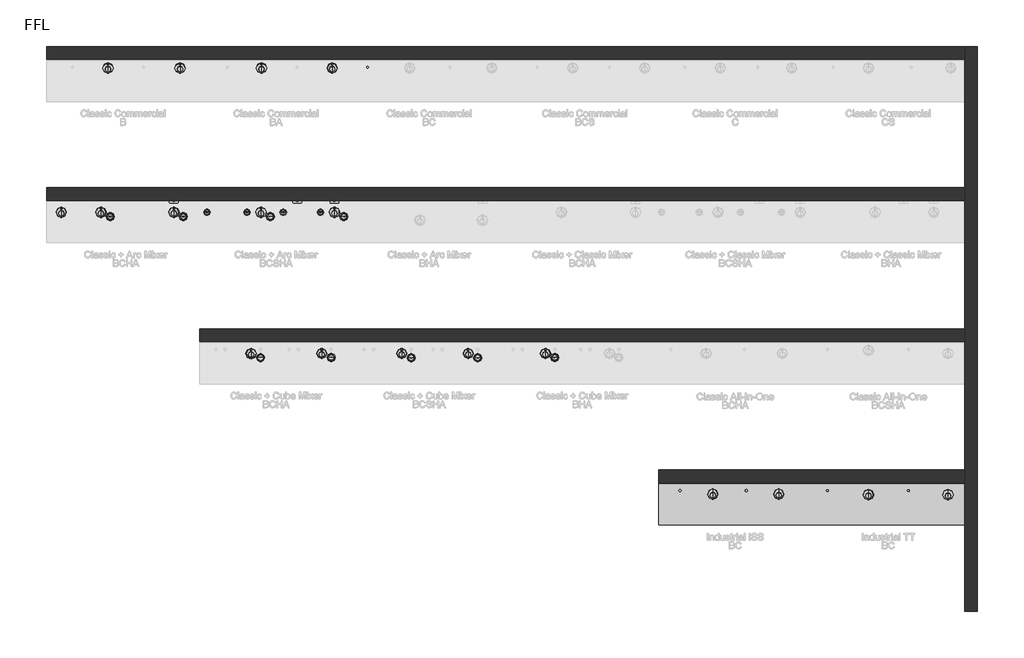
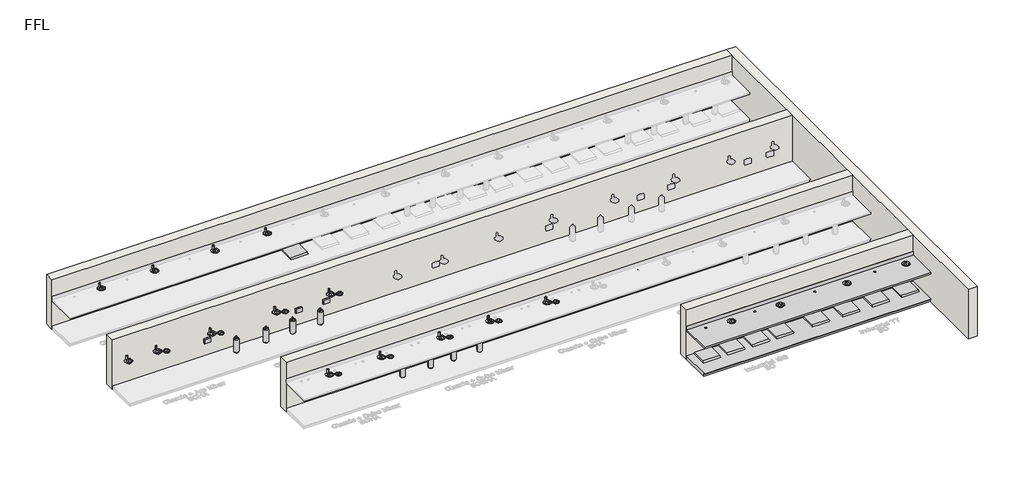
# One storey, part 1 of 13: 58 flow terminals, 5 walls, 2 furniture elements.
"""IFC4 building model written with IfcOpenShell, lengths in millimetres."""

from ifc_helpers import new_model, si_unit, frame, origin, origin_with_axes, place, context, project, spatial, polyline, circle_curve, outline, extrude, faceted_brep, transform, mapped, element, save
from ifc_brep_helpers import plane_surface, revolved_surface, advanced_brep
from components import flow_terminal_1fd3c137, bcs_and_bc_6de74493, bright_chrome_07e2d693, bright_chrome_a5679dcf, brushed_chrome_743c02cf, co2_gas_cylinder_20234e14, generic_plinth_900mm_54fedcf1

model = new_model("IFC4")

# Units and contexts
model_context = context("Model", 3, world=origin())
ifc_project = project(units=[si_unit("LENGTHUNIT", "METRE", prefix="MILLI")], contexts=[model_context])

# Site, building, storey
site = spatial("IfcSite", under=ifc_project)
building = spatial("IfcBuilding", under=site)
storey = spatial("IfcBuildingStorey", under=building, Name="FFL", Elevation=0.0)

# Flow terminals
placement = place(None, origin())
flow_terminal_shape = flow_terminal_1fd3c137(model_context)
element("IfcFlowTerminal", 1, ObjectType="z_PlumFixt_Zenith_Booster : Booster", at=placement, inside=storey, context=model_context, shape_type="MappedRepresentation", body=[
    mapped(flow_terminal_shape, transform((-4136.7352929, 7886.1893304, 498.0), x_axis=(1.0, 0.0, 0.0), y_axis=(0.0, 1.0, 0.0), z_axis=(0.0, 0.0, 1.0))),
])
element("IfcFlowTerminal", 2, ObjectType="z_PlumFixt_Zenith_Booster : Booster", at=placement, inside=storey, context=model_context, shape_type="MappedRepresentation", body=[
    mapped(flow_terminal_shape, transform((-4916.7352929, 7886.1893304, 498.0), x_axis=(1.0, 0.0, 0.0), y_axis=(0.0, 1.0, 0.0), z_axis=(0.0, 0.0, 1.0))),
])
element("IfcFlowTerminal", 3, ObjectType="z_PlumFixt_Zenith_Booster : Booster", at=placement, inside=storey, context=model_context, shape_type="MappedRepresentation", body=[
    mapped(flow_terminal_shape, transform((-856.7352929, 4901.1893304, 498.0), x_axis=(1.0, 0.0, 0.0), y_axis=(0.0, 1.0, 0.0), z_axis=(0.0, 0.0, 1.0))),
])
element("IfcFlowTerminal", 4, ObjectType="z_PlumFixt_Zenith_Booster : Booster", at=placement, inside=storey, context=model_context, shape_type="MappedRepresentation", body=[
    mapped(flow_terminal_shape, transform((-1646.7352929, 4901.1893304, 498.0), x_axis=(1.0, 0.0, 0.0), y_axis=(0.0, 1.0, 0.0), z_axis=(0.0, 0.0, 1.0))),
])
element("IfcFlowTerminal", 5, ObjectType="z_PlumFixt_Zenith_Booster : Booster", at=placement, inside=storey, context=model_context, shape_type="MappedRepresentation", body=[
    mapped(flow_terminal_shape, transform((-4266.7352929, 4901.1893304, 498.0), x_axis=(1.0, 0.0, 0.0), y_axis=(0.0, 1.0, 0.0), z_axis=(0.0, 0.0, 1.0))),
])
element("IfcFlowTerminal", 6, ObjectType="z_PlumFixt_Zenith_Booster : Booster", at=placement, inside=storey, context=model_context, shape_type="MappedRepresentation", body=[
    mapped(flow_terminal_shape, transform((-1656.7352929, 7886.1893304, 498.0), x_axis=(1.0, 0.0, 0.0), y_axis=(0.0, 1.0, 0.0), z_axis=(0.0, 0.0, 1.0))),
])
element("IfcFlowTerminal", 7, ObjectType="z_PlumFixt_Zenith_Booster : Booster", at=placement, inside=storey, context=model_context, shape_type="MappedRepresentation", body=[
    mapped(flow_terminal_shape, transform((-906.7352929, 7886.1893304, 498.0), x_axis=(1.0, 0.0, 0.0), y_axis=(0.0, 1.0, 0.0), z_axis=(0.0, 0.0, 1.0))),
])
element("IfcFlowTerminal", 8, ObjectType="z_PlumFixt_Zenith_Booster : Booster", at=placement, inside=storey, context=model_context, shape_type="MappedRepresentation", body=[
    mapped(flow_terminal_shape, transform((-1126.7352929, 1751.1893304, 498.0), x_axis=(1.0, 0.0, 0.0), y_axis=(0.0, 1.0, 0.0), z_axis=(0.0, 0.0, 1.0))),
])
element("IfcFlowTerminal", 9, ObjectType="z_PlumFixt_Zenith_Booster : Booster", at=placement, inside=storey, context=model_context, shape_type="MappedRepresentation", body=[
    mapped(flow_terminal_shape, transform((1233.2647071, 1901.1893304, 498.0), x_axis=(1.0, 0.0, 0.0), y_axis=(0.0, 1.0, 0.0), z_axis=(0.0, 0.0, 1.0))),
])
element("IfcFlowTerminal", 10, ObjectType="z_PlumFixt_Zenith_Booster : Booster", at=placement, inside=storey, context=model_context, shape_type="MappedRepresentation", body=[
    mapped(flow_terminal_shape, transform((1983.2647071, 1901.1893304, 498.0), x_axis=(1.0, 0.0, 0.0), y_axis=(0.0, 1.0, 0.0), z_axis=(0.0, 0.0, 1.0))),
])
element("IfcFlowTerminal", 11, ObjectType="z_PlumFixt_Zenith_Booster : Booster", at=placement, inside=storey, context=model_context, shape_type="MappedRepresentation", body=[
    mapped(flow_terminal_shape, transform((7892.2647071, -1113.8106696, 538.0), x_axis=(1.0, 0.0, 0.0), y_axis=(0.0, 1.0, 0.0), z_axis=(0.0, 0.0, 1.0))),
])
element("IfcFlowTerminal", 12, ObjectType="z_PlumFixt_Zenith_Booster : Booster", at=placement, inside=storey, context=model_context, shape_type="MappedRepresentation", body=[
    mapped(flow_terminal_shape, transform((8580.2647071, -1113.8106696, 538.0), x_axis=(1.0, 0.0, 0.0), y_axis=(0.0, 1.0, 0.0), z_axis=(0.0, 0.0, 1.0))),
])
element("IfcFlowTerminal", 13, ObjectType="z_PlumFixt_Zenith_Booster : Booster", at=placement, inside=storey, context=model_context, shape_type="MappedRepresentation", body=[
    mapped(flow_terminal_shape, transform((11332.2647071, -1113.8106696, 538.0), x_axis=(1.0, 0.0, 0.0), y_axis=(0.0, 1.0, 0.0), z_axis=(0.0, 0.0, 1.0))),
])
element("IfcFlowTerminal", 14, ObjectType="z_PlumFixt_Zenith_Booster : Booster", at=placement, inside=storey, context=model_context, shape_type="MappedRepresentation", body=[
    mapped(flow_terminal_shape, transform((12173.2647071, -1113.8106696, 538.0), x_axis=(1.0, 0.0, 0.0), y_axis=(0.0, 1.0, 0.0), z_axis=(0.0, 0.0, 1.0))),
])
bcs_and_bc_shape = bcs_and_bc_6de74493(model_context)
element("IfcFlowTerminal", 15, ObjectType="z_PlumFixt_Zenith_Vent Tray : BCS and BC", at=placement, inside=storey, context=model_context, shape_type="MappedRepresentation", body=[
    mapped(bcs_and_bc_shape, transform((-150.7352929, 7706.6893304, 100.0), x_axis=(1.0, 0.0, 0.0), y_axis=(0.0, 1.0, 0.0), z_axis=(0.0, 0.0, 1.0))),
])
element("IfcFlowTerminal", 16, ObjectType="z_PlumFixt_Zenith_Vent Tray : BCS and BC", at=placement, inside=storey, context=model_context, shape_type="MappedRepresentation", body=[
    mapped(bcs_and_bc_shape, transform((6483.2647071, -1293.3106696, 100.0), x_axis=(1.0, 0.0, 0.0), y_axis=(0.0, 1.0, 0.0), z_axis=(0.0, 0.0, 1.0))),
])
element("IfcFlowTerminal", 17, ObjectType="z_PlumFixt_Zenith_Vent Tray : BCS and BC", at=placement, inside=storey, context=model_context, shape_type="MappedRepresentation", body=[
    mapped(bcs_and_bc_shape, transform((7180.2647071, -1293.3106696, 100.0), x_axis=(1.0, 0.0, 0.0), y_axis=(0.0, 1.0, 0.0), z_axis=(0.0, 0.0, 1.0))),
])
element("IfcFlowTerminal", 18, ObjectType="z_PlumFixt_Zenith_Vent Tray : BCS and BC", at=placement, inside=storey, context=model_context, shape_type="MappedRepresentation", body=[
    mapped(bcs_and_bc_shape, transform((7892.2647071, -1293.3106696, 100.0), x_axis=(1.0, 0.0, 0.0), y_axis=(0.0, 1.0, 0.0), z_axis=(0.0, 0.0, 1.0))),
])
element("IfcFlowTerminal", 19, ObjectType="z_PlumFixt_Zenith_Vent Tray : BCS and BC", at=placement, inside=storey, context=model_context, shape_type="MappedRepresentation", body=[
    mapped(bcs_and_bc_shape, transform((8580.2647071, -1293.3106696, 100.0), x_axis=(1.0, 0.0, 0.0), y_axis=(0.0, 1.0, 0.0), z_axis=(0.0, 0.0, 1.0))),
])
element("IfcFlowTerminal", 20, ObjectType="z_PlumFixt_Zenith_Vent Tray : BCS and BC", at=placement, inside=storey, context=model_context, shape_type="MappedRepresentation", body=[
    mapped(bcs_and_bc_shape, transform((9612.2647071, -1293.3106696, 100.0), x_axis=(1.0, 0.0, 0.0), y_axis=(0.0, 1.0, 0.0), z_axis=(0.0, 0.0, 1.0))),
])
element("IfcFlowTerminal", 21, ObjectType="z_PlumFixt_Zenith_Vent Tray : BCS and BC", at=placement, inside=storey, context=model_context, shape_type="MappedRepresentation", body=[
    mapped(bcs_and_bc_shape, transform((10483.2647071, -1293.3106696, 100.0), x_axis=(1.0, 0.0, 0.0), y_axis=(0.0, 1.0, 0.0), z_axis=(0.0, 0.0, 1.0))),
])
element("IfcFlowTerminal", 22, ObjectType="z_PlumFixt_Zenith_Vent Tray : BCS and BC", at=placement, inside=storey, context=model_context, shape_type="MappedRepresentation", body=[
    mapped(bcs_and_bc_shape, transform((11332.2647071, -1293.3106696, 100.0), x_axis=(1.0, 0.0, 0.0), y_axis=(0.0, 1.0, 0.0), z_axis=(0.0, 0.0, 1.0))),
])
element("IfcFlowTerminal", 23, ObjectType="z_PlumFixt_Zenith_Vent Tray : BCS and BC", at=placement, inside=storey, context=model_context, shape_type="MappedRepresentation", body=[
    mapped(bcs_and_bc_shape, transform((12173.2647071, -1293.3106696, 100.0), x_axis=(1.0, 0.0, 0.0), y_axis=(0.0, 1.0, 0.0), z_axis=(0.0, 0.0, 1.0))),
])
bright_chrome_shape = bright_chrome_07e2d693(model_context)
element("IfcFlowTerminal", 24, ObjectType="z_PlumFixt_Zenith_Font and Tap Riser : Bright Chrome", at=placement, inside=storey, context=model_context, shape_type="MappedRepresentation", body=[
    mapped(bright_chrome_shape, transform((-6656.7352929, 4578.9393304, 900.0), x_axis=(1.0, 0.0, 0.0), y_axis=(0.0, 1.0, 0.0), z_axis=(0.0, 0.0, 1.0))),
])
element("IfcFlowTerminal", 25, ObjectType="z_PlumFixt_Zenith_Font and Tap Riser : Bright Chrome", at=placement, inside=storey, context=model_context, shape_type="MappedRepresentation", body=[
    mapped(bright_chrome_shape, transform((-2405.7352929, 7645.4393304, 900.0), x_axis=(1.0, 0.0, 0.0), y_axis=(0.0, 1.0, 0.0), z_axis=(0.0, 0.0, 1.0))),
])
element("IfcFlowTerminal", 26, ObjectType="z_PlumFixt_Zenith_Font and Tap Riser : Bright Chrome", at=placement, inside=storey, context=model_context, shape_type="MappedRepresentation", body=[
    mapped(bright_chrome_shape, transform((-5665.7352929, 7645.4393304, 900.0), x_axis=(1.0, 0.0, 0.0), y_axis=(0.0, 1.0, 0.0), z_axis=(0.0, 0.0, 1.0))),
])
element("IfcFlowTerminal", 27, ObjectType="z_PlumFixt_Zenith_Font and Tap Riser : Bright Chrome", at=placement, inside=storey, context=model_context, shape_type="MappedRepresentation", body=[
    mapped(bright_chrome_shape, transform((-2416.7352929, 4578.9393304, 900.0), x_axis=(1.0, 0.0, 0.0), y_axis=(0.0, 1.0, 0.0), z_axis=(0.0, 0.0, 1.0))),
])
element("IfcFlowTerminal", 28, ObjectType="z_PlumFixt_Zenith_Font and Tap Riser : Bright Chrome", at=placement, inside=storey, context=model_context, shape_type="MappedRepresentation", body=[
    mapped(bright_chrome_shape, transform((-2626.7352929, 1576.2047841, 900.0), x_axis=(1.0, 0.0, 0.0), y_axis=(0.0, 1.0, 0.0), z_axis=(0.0, 0.0, 1.0))),
])
element("IfcFlowTerminal", 29, ObjectType="z_PlumFixt_Zenith_Font and Tap Riser : Bright Chrome", at=placement, inside=storey, context=model_context, shape_type="MappedRepresentation", body=[
    mapped(bright_chrome_shape, transform((-5816.7352929, 4578.9393304, 900.0), x_axis=(1.0, 0.0, 0.0), y_axis=(0.0, 1.0, 0.0), z_axis=(0.0, 0.0, 1.0))),
])
element("IfcFlowTerminal", 30, ObjectType="z_PlumFixt_Zenith_Font and Tap Riser : Bright Chrome", at=placement, inside=storey, context=model_context, shape_type="MappedRepresentation", body=[
    mapped(bright_chrome_shape, transform((3623.2647071, 1578.9393304, 900.0), x_axis=(1.0, 0.0, 0.0), y_axis=(0.0, 1.0, 0.0), z_axis=(0.0, 0.0, 1.0))),
])
element("IfcFlowTerminal", 31, ObjectType="z_PlumFixt_Zenith_Font and Tap Riser : Bright Chrome", at=placement, inside=storey, context=model_context, shape_type="MappedRepresentation", body=[
    mapped(bright_chrome_shape, transform((572.2647071, 1578.9393304, 900.0), x_axis=(1.0, 0.0, 0.0), y_axis=(0.0, 1.0, 0.0), z_axis=(0.0, 0.0, 1.0))),
])
element("IfcFlowTerminal", 32, ObjectType="z_PlumFixt_Zenith_Font and Tap Riser : Bright Chrome", at=placement, inside=storey, context=model_context, shape_type="MappedRepresentation", body=[
    mapped(bright_chrome_shape, transform((-905.7352929, 7645.4393304, 900.0), x_axis=(1.0, 0.0, 0.0), y_axis=(0.0, 1.0, 0.0), z_axis=(0.0, 0.0, 1.0))),
])
element("IfcFlowTerminal", 33, ObjectType="z_PlumFixt_Zenith_Font and Tap Riser : Bright Chrome", at=placement, inside=storey, context=model_context, shape_type="MappedRepresentation", body=[
    mapped(bright_chrome_shape, transform((-4135.7352929, 7645.4393304, 900.0), x_axis=(1.0, 0.0, 0.0), y_axis=(0.0, 1.0, 0.0), z_axis=(0.0, 0.0, 1.0))),
])
element("IfcFlowTerminal", 34, ObjectType="z_PlumFixt_Zenith_Font and Tap Riser : Bright Chrome", at=placement, inside=storey, context=model_context, shape_type="MappedRepresentation", body=[
    mapped(bright_chrome_shape, transform((-856.7352929, 4578.9393304, 900.0), x_axis=(1.0, 0.0, 0.0), y_axis=(0.0, 1.0, 0.0), z_axis=(0.0, 0.0, 1.0))),
])
element("IfcFlowTerminal", 35, ObjectType="z_PlumFixt_Zenith_Font and Tap Riser : Bright Chrome", at=placement, inside=storey, context=model_context, shape_type="MappedRepresentation", body=[
    mapped(bright_chrome_shape, transform((1983.2647071, 1578.9393304, 900.0), x_axis=(1.0, 0.0, 0.0), y_axis=(0.0, 1.0, 0.0), z_axis=(0.0, 0.0, 1.0))),
])
element("IfcFlowTerminal", 36, ObjectType="z_PlumFixt_Zenith_Font and Tap Riser : Bright Chrome", at=placement, inside=storey, context=model_context, shape_type="MappedRepresentation", body=[
    mapped(bright_chrome_shape, transform((-4266.7352929, 4578.9393304, 900.0), x_axis=(1.0, 0.0, 0.0), y_axis=(0.0, 1.0, 0.0), z_axis=(0.0, 0.0, 1.0))),
])
element("IfcFlowTerminal", 37, ObjectType="z_PlumFixt_Zenith_Font and Tap Riser : Bright Chrome", at=placement, inside=storey, context=model_context, shape_type="MappedRepresentation", body=[
    mapped(bright_chrome_shape, transform((-1126.7352929, 1578.9393304, 900.0), x_axis=(1.0, 0.0, 0.0), y_axis=(0.0, 1.0, 0.0), z_axis=(0.0, 0.0, 1.0))),
])
bright_chrome_2_shape = bright_chrome_a5679dcf(model_context)
element("IfcFlowTerminal", 38, ObjectType="z_PlumFixt_Zenith_Font Industrial : Bright Chrome", at=placement, inside=storey, context=model_context, shape_type="MappedRepresentation", body=[
    mapped(bright_chrome_2_shape, transform((7180.2647071, -1410.0606696, 900.0), x_axis=(1.0, 0.0, 0.0), y_axis=(0.0, 1.0, 0.0), z_axis=(0.0, 0.0, 1.0))),
])
element("IfcFlowTerminal", 39, ObjectType="z_PlumFixt_Zenith_Font Industrial : Bright Chrome", at=placement, inside=storey, context=model_context, shape_type="MappedRepresentation", body=[
    mapped(bright_chrome_2_shape, transform((10483.2647071, -1422.0606696, 900.0), x_axis=(1.0000000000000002, 0.0, 0.0), y_axis=(0.0, 1.0000000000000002, 0.0), z_axis=(0.0, 0.0, 1.0))),
])
element("IfcFlowTerminal", 40, ObjectType="z_PlumFixt_Zenith_Font Industrial : Bright Chrome", at=placement, inside=storey, context=model_context, shape_type="MappedRepresentation", body=[
    mapped(bright_chrome_2_shape, transform((8580.2647071, -1410.0606696, 900.0), x_axis=(1.0, 0.0, 0.0), y_axis=(0.0, 1.0, 0.0), z_axis=(0.0, 0.0, 1.0))),
])
element("IfcFlowTerminal", 41, ObjectType="z_PlumFixt_Zenith_Font Industrial : Bright Chrome", at=placement, inside=storey, context=model_context, shape_type="MappedRepresentation", body=[
    mapped(bright_chrome_2_shape, transform((12173.2647071, -1422.0606696, 900.0), x_axis=(1.0000000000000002, 0.0, 0.0), y_axis=(0.0, 1.0000000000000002, 0.0), z_axis=(0.0, 0.0, 1.0))),
])
brushed_chrome_shape = brushed_chrome_743c02cf(model_context)
element("IfcFlowTerminal", 42, ObjectType="z_PlumFixt_Zenith_Font : Brushed Chrome", at=placement, inside=storey, context=model_context, shape_type="MappedRepresentation", body=[
    mapped(brushed_chrome_shape, transform((-2216.7352929, 4488.1893304, 900.0), x_axis=(1.0, 0.0, 0.0), y_axis=(0.0, 1.0, 0.0), z_axis=(0.0, 0.0, 1.0))),
])
element("IfcFlowTerminal", 43, ObjectType="z_PlumFixt_Zenith_Font : Brushed Chrome", at=placement, inside=storey, context=model_context, shape_type="MappedRepresentation", body=[
    mapped(brushed_chrome_shape, transform((-2426.7352929, 1489.4547841, 900.0), x_axis=(1.0, 0.0, 0.0), y_axis=(0.0, 1.0, 0.0), z_axis=(0.0, 0.0, 1.0))),
])
element("IfcFlowTerminal", 44, ObjectType="z_PlumFixt_Zenith_Font : Brushed Chrome", at=placement, inside=storey, context=model_context, shape_type="MappedRepresentation", body=[
    mapped(brushed_chrome_shape, transform((-5616.7352929, 4488.1893304, 900.0), x_axis=(1.0, 0.0, 0.0), y_axis=(0.0, 1.0, 0.0), z_axis=(0.0, 0.0, 1.0))),
])
element("IfcFlowTerminal", 45, ObjectType="z_PlumFixt_Zenith_Font : Brushed Chrome", at=placement, inside=storey, context=model_context, shape_type="MappedRepresentation", body=[
    mapped(brushed_chrome_shape, transform((3823.2647071, 1492.1893304, 900.0), x_axis=(1.0, 0.0, 0.0), y_axis=(0.0, 1.0, 0.0), z_axis=(0.0, 0.0, 1.0))),
])
element("IfcFlowTerminal", 46, ObjectType="z_PlumFixt_Zenith_Font : Brushed Chrome", at=placement, inside=storey, context=model_context, shape_type="MappedRepresentation", body=[
    mapped(brushed_chrome_shape, transform((772.2647071, 1488.1893304, 900.0), x_axis=(1.0, 0.0, 0.0), y_axis=(0.0, 1.0, 0.0), z_axis=(0.0, 0.0, 1.0))),
])
co2_gas_cylinder_shape = co2_gas_cylinder_20234e14(model_context)
element("IfcFlowTerminal", 47, ObjectType="z_PlumFixt_Zenith_CO2 Gas Cylinder : CO2 Gas Cylinder", at=placement, inside=storey, context=model_context, shape_type="MappedRepresentation", body=[
    mapped(co2_gas_cylinder_shape, transform((-3561.7352929, 4510.1893304, 100.0), x_axis=(-1.0, 0.0, 0.0), y_axis=(0.0, -1.0, 0.0), z_axis=(0.0, 0.0, 1.0))),
])
element("IfcFlowTerminal", 48, ObjectType="z_PlumFixt_Zenith_CO2 Gas Cylinder : CO2 Gas Cylinder", at=placement, inside=storey, context=model_context, shape_type="MappedRepresentation", body=[
    mapped(co2_gas_cylinder_shape, transform((-2711.7352929, 4510.1893304, 100.0), x_axis=(-1.0, 0.0, 0.0), y_axis=(0.0, -1.0, 0.0), z_axis=(0.0, 0.0, 1.0))),
])
element("IfcFlowTerminal", 49, ObjectType="z_PlumFixt_Zenith_CO2 Gas Cylinder : CO2 Gas Cylinder", at=placement, inside=storey, context=model_context, shape_type="MappedRepresentation", body=[
    mapped(co2_gas_cylinder_shape, transform((-1941.7352929, 4510.1893304, 100.0), x_axis=(-1.0, 0.0, 0.0), y_axis=(0.0, -1.0, 0.0), z_axis=(0.0, 0.0, 1.0))),
])
element("IfcFlowTerminal", 50, ObjectType="z_PlumFixt_Zenith_CO2 Gas Cylinder : CO2 Gas Cylinder", at=placement, inside=storey, context=model_context, shape_type="MappedRepresentation", body=[
    mapped(co2_gas_cylinder_shape, transform((-1151.7352929, 4510.1893304, 100.0), x_axis=(-1.0, 0.0, 0.0), y_axis=(0.0, -1.0, 0.0), z_axis=(0.0, 0.0, 1.0))),
])
element("IfcFlowTerminal", 51, ObjectType="z_PlumFixt_Zenith_CO2 Gas Cylinder : CO2 Gas Cylinder", at=placement, inside=storey, context=model_context, shape_type="MappedRepresentation", body=[
    mapped(co2_gas_cylinder_shape, transform((-521.7352929, 1510.1893304, 100.0), x_axis=(-1.0, 0.0, 0.0), y_axis=(0.0, -1.0, 0.0), z_axis=(0.0, 0.0, 1.0))),
])
element("IfcFlowTerminal", 52, ObjectType="z_PlumFixt_Zenith_CO2 Gas Cylinder : CO2 Gas Cylinder", at=placement, inside=storey, context=model_context, shape_type="MappedRepresentation", body=[
    mapped(co2_gas_cylinder_shape, transform((277.2647071, 1510.1893304, 100.0), x_axis=(-1.0, 0.0, 0.0), y_axis=(0.0, -1.0, 0.0), z_axis=(0.0, 0.0, 1.0))),
])
element("IfcFlowTerminal", 53, ObjectType="z_PlumFixt_Zenith_CO2 Gas Cylinder : CO2 Gas Cylinder", at=placement, inside=storey, context=model_context, shape_type="MappedRepresentation", body=[
    mapped(co2_gas_cylinder_shape, transform((938.2647071, 1510.1893304, 100.0), x_axis=(-1.0, 0.0, 0.0), y_axis=(0.0, -1.0, 0.0), z_axis=(0.0, 0.0, 1.0))),
])
element("IfcFlowTerminal", 54, ObjectType="z_PlumFixt_Zenith_CO2 Gas Cylinder : CO2 Gas Cylinder", at=placement, inside=storey, context=model_context, shape_type="MappedRepresentation", body=[
    mapped(co2_gas_cylinder_shape, transform((1688.2647071, 1510.1893304, 100.0), x_axis=(-1.0, 0.0, 0.0), y_axis=(0.0, -1.0, 0.0), z_axis=(0.0, 0.0, 1.0))),
])
element("IfcFlowTerminal", 55, ObjectType="z_PlumFixt_Zenith_Font : Matte Black", at=placement, inside=storey, context=model_context, shape_type="MappedRepresentation", body=[
    mapped(brushed_chrome_shape, transform((-656.7352929, 4488.1893304, 900.0), x_axis=(1.0, 0.0, 0.0), y_axis=(0.0, 1.0, 0.0), z_axis=(0.0, 0.0, 1.0))),
])
element("IfcFlowTerminal", 56, ObjectType="z_PlumFixt_Zenith_Font : Matte Black", at=placement, inside=storey, context=model_context, shape_type="MappedRepresentation", body=[
    mapped(brushed_chrome_shape, transform((2183.2647071, 1488.1893304, 900.0), x_axis=(1.0, 0.0, 0.0), y_axis=(0.0, 1.0, 0.0), z_axis=(0.0, 0.0, 1.0))),
])
element("IfcFlowTerminal", 57, ObjectType="z_PlumFixt_Zenith_Font : Matte Black", at=placement, inside=storey, context=model_context, shape_type="MappedRepresentation", body=[
    mapped(brushed_chrome_shape, transform((-4066.7352929, 4488.1893304, 900.0), x_axis=(1.0, 0.0, 0.0), y_axis=(0.0, 1.0, 0.0), z_axis=(0.0, 0.0, 1.0))),
])
element("IfcFlowTerminal", 58, ObjectType="z_PlumFixt_Zenith_Font : Matte Black", at=placement, inside=storey, context=model_context, shape_type="MappedRepresentation", body=[
    mapped(brushed_chrome_shape, transform((-926.7352929, 1492.1893304, 900.0), x_axis=(1.0, 0.0, 0.0), y_axis=(0.0, 1.0, 0.0), z_axis=(0.0, 0.0, 1.0))),
])

# Furniture
element("IfcFurniture", 59, ObjectType="Counter Top : 900mm Depth", at=placement, inside=storey, context=model_context, shape_type="AdvancedBrep", body=[
    advanced_brep(
    [(6029.7765025, -2051.7606696, 900.0), (12530.2647071, -2051.7606696, 900.0), (12530.2647071, -1170.8106696, 900.0), (6029.7765025, -1170.8106696, 900.0), (6484.2647071, -1343.8156929, 900.0), (6484.2647071, -1297.8056464, 900.0), (7181.2647071, -1343.8156929, 900.0), (7181.2647071, -1297.8056464, 900.0), (7181.2647071, -1348.2287097, 900.0), (7181.2647071, -1484.6287097, 900.0), (7893.2647071, -1343.8156929, 900.0), (7893.2647071, -1297.8056464, 900.0), (8581.2647071, -1343.8156929, 900.0), (8581.2647071, -1297.8056464, 900.0), (8581.2647071, -1348.2287097, 900.0), (8581.2647071, -1484.6287097, 900.0), (9613.2647071, -1300.8106696, 900.0), (9613.2647071, -1340.8106696, 900.0), (10484.2647071, -1300.8106696, 900.0), (10484.2647071, -1340.8106696, 900.0), (11333.2647071, -1300.8106696, 900.0), (11333.2647071, -1340.8106696, 900.0), (12174.2647071, -1300.8106696, 900.0), (12174.2647071, -1340.8106696, 900.0), (10484.2647071, -1495.6287097, 900.0), (10484.2647071, -1359.2287097, 900.0), (12174.2647071, -1495.6287097, 900.0), (12174.2647071, -1359.2287097, 900.0), (12530.2647071, -1151.7606696, 860.0), (12530.2647071, -2051.7606696, 860.0), (6029.7765025, -2051.7606696, 860.0), (6029.7765025, -1151.7606696, 860.0), (6484.2647071, -1297.8056464, 860.0), (6484.2647071, -1343.8156929, 860.0), (7181.2647071, -1297.8056464, 860.0), (7181.2647071, -1343.8156929, 860.0), (7181.2647071, -1484.6287097, 860.0), (7181.2647071, -1348.2287097, 860.0), (7893.2647071, -1297.8056464, 860.0), (7893.2647071, -1343.8156929, 860.0), (8581.2647071, -1297.8056464, 860.0), (8581.2647071, -1343.8156929, 860.0), (8581.2647071, -1484.6287097, 860.0), (8581.2647071, -1348.2287097, 860.0), (9613.2647071, -1340.8106696, 860.0), (9613.2647071, -1300.8106696, 860.0), (10484.2647071, -1340.8106696, 860.0), (10484.2647071, -1300.8106696, 860.0), (11333.2647071, -1340.8106696, 860.0), (11333.2647071, -1300.8106696, 860.0), (12174.2647071, -1340.8106696, 860.0), (12174.2647071, -1300.8106696, 860.0), (10484.2647071, -1359.2287097, 860.0), (10484.2647071, -1495.6287097, 860.0), (12174.2647071, -1359.2287097, 860.0), (12174.2647071, -1495.6287097, 860.0), (6029.7765025, -1151.7606696, 1001.6), (12530.2647071, -1151.7606696, 1001.6), (6029.7765025, -1170.8106696, 1001.6), (12530.2647071, -1170.8106696, 1001.6)],
    [
        (0, 1),
        (1, 2),
        (2, 3),
        (3, 0),
        (4, 5, circle_curve(frame((6484.2647071, -1320.8106696, 900.0), z_axis=(0.0, 0.0, -1.0), x_axis=(0.0, -1.0, 0.0)), 23.0050233)),
        (5, 4, circle_curve(frame((6484.2647071, -1320.8106696, 900.0), z_axis=(0.0, 0.0, -1.0), x_axis=(0.0, -1.0, 0.0)), 23.0050233)),
        (6, 7, circle_curve(frame((7181.2647071, -1320.8106696, 900.0), z_axis=(0.0, 0.0, -1.0), x_axis=(0.0, -1.0, 0.0)), 23.0050233)),
        (7, 6, circle_curve(frame((7181.2647071, -1320.8106696, 900.0), z_axis=(0.0, 0.0, -1.0), x_axis=(0.0, -1.0, 0.0)), 23.0050233)),
        (8, 9, circle_curve(frame((7181.2647071, -1416.4287097, 900.0), z_axis=(0.0, 0.0, -1.0), x_axis=(0.0, -1.0, 0.0)), 68.2)),
        (9, 8, circle_curve(frame((7181.2647071, -1416.4287097, 900.0), z_axis=(0.0, 0.0, -1.0), x_axis=(0.0, -1.0, 0.0)), 68.2)),
        (10, 11, circle_curve(frame((7893.2647071, -1320.8106696, 900.0), z_axis=(0.0, 0.0, -1.0), x_axis=(0.0, -1.0, 0.0)), 23.0050233)),
        (11, 10, circle_curve(frame((7893.2647071, -1320.8106696, 900.0), z_axis=(0.0, 0.0, -1.0), x_axis=(0.0, -1.0, 0.0)), 23.0050233)),
        (12, 13, circle_curve(frame((8581.2647071, -1320.8106696, 900.0), z_axis=(0.0, 0.0, -1.0), x_axis=(0.0, -1.0, 0.0)), 23.0050233)),
        (13, 12, circle_curve(frame((8581.2647071, -1320.8106696, 900.0), z_axis=(0.0, 0.0, -1.0), x_axis=(0.0, -1.0, 0.0)), 23.0050233)),
        (14, 15, circle_curve(frame((8581.2647071, -1416.4287097, 900.0), z_axis=(0.0, 0.0, -1.0), x_axis=(0.0, -1.0, 0.0)), 68.2)),
        (15, 14, circle_curve(frame((8581.2647071, -1416.4287097, 900.0), z_axis=(0.0, 0.0, -1.0), x_axis=(0.0, -1.0, 0.0)), 68.2)),
        (16, 17, circle_curve(frame((9613.2647071, -1320.8106696, 900.0), z_axis=(0.0, 0.0, -1.0), x_axis=(0.0, -1.0, 0.0)), 20.0)),
        (17, 16, circle_curve(frame((9613.2647071, -1320.8106696, 900.0), z_axis=(0.0, 0.0, -1.0), x_axis=(0.0, -1.0, 0.0)), 20.0)),
        (18, 19, circle_curve(frame((10484.2647071, -1320.8106696, 900.0), z_axis=(0.0, 0.0, -1.0), x_axis=(0.0, -1.0, 0.0)), 20.0)),
        (19, 18, circle_curve(frame((10484.2647071, -1320.8106696, 900.0), z_axis=(0.0, 0.0, -1.0), x_axis=(0.0, -1.0, 0.0)), 20.0)),
        (20, 21, circle_curve(frame((11333.2647071, -1320.8106696, 900.0), z_axis=(0.0, 0.0, -1.0), x_axis=(0.0, -1.0, 0.0)), 20.0)),
        (21, 20, circle_curve(frame((11333.2647071, -1320.8106696, 900.0), z_axis=(0.0, 0.0, -1.0), x_axis=(0.0, -1.0, 0.0)), 20.0)),
        (22, 23, circle_curve(frame((12174.2647071, -1320.8106696, 900.0), z_axis=(0.0, 0.0, -1.0), x_axis=(0.0, -1.0, 0.0)), 20.0)),
        (23, 22, circle_curve(frame((12174.2647071, -1320.8106696, 900.0), z_axis=(0.0, 0.0, -1.0), x_axis=(0.0, -1.0, 0.0)), 20.0)),
        (24, 25, circle_curve(frame((10484.2647071, -1427.4287097, 900.0), z_axis=(0.0, 0.0, -1.0), x_axis=(0.0, -1.0, 0.0)), 68.2)),
        (25, 24, circle_curve(frame((10484.2647071, -1427.4287097, 900.0), z_axis=(0.0, 0.0, -1.0), x_axis=(0.0, -1.0, 0.0)), 68.2)),
        (26, 27, circle_curve(frame((12174.2647071, -1427.4287097, 900.0), z_axis=(0.0, 0.0, -1.0), x_axis=(0.0, -1.0, 0.0)), 68.2)),
        (27, 26, circle_curve(frame((12174.2647071, -1427.4287097, 900.0), z_axis=(0.0, 0.0, -1.0), x_axis=(0.0, -1.0, 0.0)), 68.2)),
        (28, 29),
        (29, 30),
        (30, 31),
        (31, 28),
        (32, 33, circle_curve(frame((6484.2647071, -1320.8106696, 860.0), z_axis=(0.0, 0.0, 1.0), x_axis=(0.0, -1.0, 0.0)), 23.0050233)),
        (33, 32, circle_curve(frame((6484.2647071, -1320.8106696, 860.0), z_axis=(0.0, 0.0, 1.0), x_axis=(0.0, -1.0, 0.0)), 23.0050233)),
        (34, 35, circle_curve(frame((7181.2647071, -1320.8106696, 860.0), z_axis=(0.0, 0.0, 1.0), x_axis=(0.0, -1.0, 0.0)), 23.0050233)),
        (35, 34, circle_curve(frame((7181.2647071, -1320.8106696, 860.0), z_axis=(0.0, 0.0, 1.0), x_axis=(0.0, -1.0, 0.0)), 23.0050233)),
        (36, 37, circle_curve(frame((7181.2647071, -1416.4287097, 860.0), z_axis=(0.0, 0.0, 1.0), x_axis=(0.0, -1.0, 0.0)), 68.2)),
        (37, 36, circle_curve(frame((7181.2647071, -1416.4287097, 860.0), z_axis=(0.0, 0.0, 1.0), x_axis=(0.0, -1.0, 0.0)), 68.2)),
        (38, 39, circle_curve(frame((7893.2647071, -1320.8106696, 860.0), z_axis=(0.0, 0.0, 1.0), x_axis=(0.0, -1.0, 0.0)), 23.0050233)),
        (39, 38, circle_curve(frame((7893.2647071, -1320.8106696, 860.0), z_axis=(0.0, 0.0, 1.0), x_axis=(0.0, -1.0, 0.0)), 23.0050233)),
        (40, 41, circle_curve(frame((8581.2647071, -1320.8106696, 860.0), z_axis=(0.0, 0.0, 1.0), x_axis=(0.0, -1.0, 0.0)), 23.0050233)),
        (41, 40, circle_curve(frame((8581.2647071, -1320.8106696, 860.0), z_axis=(0.0, 0.0, 1.0), x_axis=(0.0, -1.0, 0.0)), 23.0050233)),
        (42, 43, circle_curve(frame((8581.2647071, -1416.4287097, 860.0), z_axis=(0.0, 0.0, 1.0), x_axis=(0.0, -1.0, 0.0)), 68.2)),
        (43, 42, circle_curve(frame((8581.2647071, -1416.4287097, 860.0), z_axis=(0.0, 0.0, 1.0), x_axis=(0.0, -1.0, 0.0)), 68.2)),
        (44, 45, circle_curve(frame((9613.2647071, -1320.8106696, 860.0), z_axis=(0.0, 0.0, 1.0), x_axis=(0.0, -1.0, 0.0)), 20.0)),
        (45, 44, circle_curve(frame((9613.2647071, -1320.8106696, 860.0), z_axis=(0.0, 0.0, 1.0), x_axis=(0.0, -1.0, 0.0)), 20.0)),
        (46, 47, circle_curve(frame((10484.2647071, -1320.8106696, 860.0), z_axis=(0.0, 0.0, 1.0), x_axis=(0.0, -1.0, 0.0)), 20.0)),
        (47, 46, circle_curve(frame((10484.2647071, -1320.8106696, 860.0), z_axis=(0.0, 0.0, 1.0), x_axis=(0.0, -1.0, 0.0)), 20.0)),
        (48, 49, circle_curve(frame((11333.2647071, -1320.8106696, 860.0), z_axis=(0.0, 0.0, 1.0), x_axis=(0.0, -1.0, 0.0)), 20.0)),
        (49, 48, circle_curve(frame((11333.2647071, -1320.8106696, 860.0), z_axis=(0.0, 0.0, 1.0), x_axis=(0.0, -1.0, 0.0)), 20.0)),
        (50, 51, circle_curve(frame((12174.2647071, -1320.8106696, 860.0), z_axis=(0.0, 0.0, 1.0), x_axis=(0.0, -1.0, 0.0)), 20.0)),
        (51, 50, circle_curve(frame((12174.2647071, -1320.8106696, 860.0), z_axis=(0.0, 0.0, 1.0), x_axis=(0.0, -1.0, 0.0)), 20.0)),
        (52, 53, circle_curve(frame((10484.2647071, -1427.4287097, 860.0), z_axis=(0.0, 0.0, 1.0), x_axis=(0.0, -1.0, 0.0)), 68.2)),
        (53, 52, circle_curve(frame((10484.2647071, -1427.4287097, 860.0), z_axis=(0.0, 0.0, 1.0), x_axis=(0.0, -1.0, 0.0)), 68.2)),
        (54, 55, circle_curve(frame((12174.2647071, -1427.4287097, 860.0), z_axis=(0.0, 0.0, 1.0), x_axis=(0.0, -1.0, 0.0)), 68.2)),
        (55, 54, circle_curve(frame((12174.2647071, -1427.4287097, 860.0), z_axis=(0.0, 0.0, 1.0), x_axis=(0.0, -1.0, 0.0)), 68.2)),
        (31, 56),
        (56, 57),
        (57, 28),
        (3, 58),
        (58, 56),
        (30, 0),
        (29, 1),
        (57, 59),
        (59, 2),
        (58, 59),
        (4, 33),
        (32, 5),
        (6, 35),
        (34, 7),
        (8, 37),
        (36, 9),
        (10, 39),
        (38, 11),
        (12, 41),
        (40, 13),
        (14, 43),
        (42, 15),
        (16, 45),
        (44, 17),
        (18, 47),
        (46, 19),
        (24, 53),
        (52, 25),
        (20, 49),
        (48, 21),
        (22, 51),
        (50, 23),
        (26, 55),
        (54, 27),
    ],
    [
        plane_surface(frame((6029.7765025, -1151.7606696, 900.0), z_axis=(0.0, 0.0, 1.0), x_axis=(-1.0, 0.0, 0.0))),
        plane_surface(frame((6029.7765025, -1151.7606696, 860.0), z_axis=(0.0, 0.0, -1.0), x_axis=(1.0, 0.0, 0.0))),
        plane_surface(frame((12530.2647071, -1151.7606696, 900.0), z_axis=(0.0, 1.0, 0.0), x_axis=(0.0, 0.0, -1.0))),
        plane_surface(frame((6029.7765025, -1151.7606696, 900.0), z_axis=(-1.0, 0.0, 0.0), x_axis=(0.0, 0.0, -1.0))),
        plane_surface(frame((6029.7765025, -2051.7606696, 900.0), z_axis=(0.0, -1.0, 0.0), x_axis=(0.0, 0.0, -1.0))),
        plane_surface(frame((12530.2647071, -2051.7606696, 900.0), z_axis=(1.0, 0.0, 0.0), x_axis=(0.0, 0.0, -1.0))),
        plane_surface(frame((6029.7765025, -1151.7606696, 1001.6), z_axis=(0.0, 0.0, 1.0), x_axis=(0.0, -1.0, 0.0))),
        plane_surface(frame((6029.7765025, -1170.8106696, 1001.6), z_axis=(0.0, -1.0, 0.0), x_axis=(0.0, 0.0, -1.0))),
        revolved_surface(polyline([(6484.2647071, -1343.8156929, 860.0), (6484.2647071, -1343.8156929, 900.0)]), (6484.2647071, -1320.8106696, 905.9736354), (0.0, 0.0, -1.0)),
        revolved_surface(polyline([(7181.2647071, -1343.8156929, 860.0), (7181.2647071, -1343.8156929, 900.0)]), (7181.2647071, -1320.8106696, 905.9736354), (0.0, 0.0, -1.0)),
        revolved_surface(polyline([(7181.2647071, -1484.6287097, 860.0), (7181.2647071, -1484.6287097, 900.0)]), (7181.2647071, -1416.4287097, 950.0), (0.0, 0.0, -1.0)),
        revolved_surface(polyline([(7893.2647071, -1343.8156929, 860.0), (7893.2647071, -1343.8156929, 900.0)]), (7893.2647071, -1320.8106696, 905.9736354), (0.0, 0.0, -1.0)),
        revolved_surface(polyline([(8581.2647071, -1343.8156929, 860.0), (8581.2647071, -1343.8156929, 900.0)]), (8581.2647071, -1320.8106696, 905.9736354), (0.0, 0.0, -1.0)),
        revolved_surface(polyline([(8581.2647071, -1484.6287097, 860.0), (8581.2647071, -1484.6287097, 900.0)]), (8581.2647071, -1416.4287097, 950.0), (0.0, 0.0, -1.0)),
        revolved_surface(polyline([(9613.2647071, -1340.8106696, 860.0), (9613.2647071, -1340.8106696, 900.0)]), (9613.2647071, -1320.8106696, 900.0), (0.0, 0.0, -1.0)),
        revolved_surface(polyline([(10484.2647071, -1340.8106696, 860.0), (10484.2647071, -1340.8106696, 900.0)]), (10484.2647071, -1320.8106696, 900.0), (0.0, 0.0, -1.0)),
        revolved_surface(polyline([(10484.2647071, -1495.6287097, 860.0), (10484.2647071, -1495.6287097, 900.0)]), (10484.2647071, -1427.4287097, 950.0), (0.0, 0.0, -1.0)),
        revolved_surface(polyline([(11333.2647071, -1340.8106696, 860.0), (11333.2647071, -1340.8106696, 900.0)]), (11333.2647071, -1320.8106696, 900.0), (0.0, 0.0, -1.0)),
        revolved_surface(polyline([(12174.2647071, -1340.8106696, 860.0), (12174.2647071, -1340.8106696, 900.0)]), (12174.2647071, -1320.8106696, 900.0), (0.0, 0.0, -1.0)),
        revolved_surface(polyline([(12174.2647071, -1495.6287097, 860.0), (12174.2647071, -1495.6287097, 900.0)]), (12174.2647071, -1427.4287097, 950.0), (0.0, 0.0, -1.0)),
    ],
    [
        (0, [[1, 2, 3, 4], [5, 6], [7, 8], [9, 10], [11, 12], [13, 14], [15, 16], [17, 18], [19, 20], [21, 22], [23, 24], [25, 26], [27, 28]]),
        (1, [[29, 30, 31, 32], [33, 34], [35, 36], [37, 38], [39, 40], [41, 42], [43, 44], [45, 46], [47, 48], [49, 50], [51, 52], [53, 54], [55, 56]]),
        (2, [[-32, 57, 58, 59]]),
        (3, [[-4, 60, 61, -57, -31, 62]]),
        (4, [[-1, -62, -30, 63]]),
        (5, [[-2, -63, -29, -59, 64, 65]]),
        (6, [[-58, -61, 66, -64]]),
        (7, [[-3, -65, -66, -60]]),
        (8, [[67, -33, 68, -5]]),
        (8, [[-67, -6, -68, -34]]),
        (9, [[69, -35, 70, -7]]),
        (9, [[-69, -8, -70, -36]]),
        (10, [[71, -37, 72, -9]]),
        (10, [[-71, -10, -72, -38]]),
        (11, [[73, -39, 74, -11]]),
        (11, [[-73, -12, -74, -40]]),
        (12, [[75, -41, 76, -13]]),
        (12, [[-75, -14, -76, -42]]),
        (13, [[77, -43, 78, -15]]),
        (13, [[-77, -16, -78, -44]]),
        (14, [[79, -45, 80, -17]]),
        (14, [[-79, -18, -80, -46]]),
        (15, [[81, -47, 82, -19]]),
        (15, [[-81, -20, -82, -48]]),
        (16, [[83, -53, 84, -25]]),
        (16, [[-83, -26, -84, -54]]),
        (17, [[85, -49, 86, -21]]),
        (17, [[-85, -22, -86, -50]]),
        (18, [[87, -51, 88, -23]]),
        (18, [[-87, -24, -88, -52]]),
        (19, [[89, -55, 90, -27]]),
        (19, [[-89, -28, -90, -56]]),
    ],
),
])
generic_plinth_900mm_shape = generic_plinth_900mm_54fedcf1(model_context)
element("IfcFurniture", 60, ObjectType="Generic Plinth : 900mm", at=placement, inside=storey, context=model_context, shape_type="MappedRepresentation", body=[
    mapped(generic_plinth_900mm_shape, transform((9261.2828999, -1151.7606696, 0.0), x_axis=(1.0, 0.0, 0.0), y_axis=(0.0, 1.0, 0.0), z_axis=(0.0, 0.0, 1.0))),
])

# Walls
element("IfcWall", 61, ObjectType="Double brick - 270", at=placement, inside=storey, context=model_context, shape_type="Brep", body=[
    faceted_brep([(12800.2647071, -3881.7606696, 0.0), (12800.2647071, 8118.2393304, 0.0), (12800.2647071, 8118.2393304, 1500.0), (12800.2647071, -3881.7606696, 1500.0), (12530.2647071, -3881.7606696, 0.0), (12530.2647071, -3881.7606696, 1500.0), (12530.2647071, -1151.7606696, 1500.0), (12530.2647071, -881.7606696, 1500.0), (12530.2647071, 1848.2393304, 1500.0), (12530.2647071, 2118.2393304, 1500.0), (12530.2647071, 4848.2393304, 1500.0), (12530.2647071, 5118.2393304, 1500.0), (12530.2647071, 7848.2393304, 1500.0), (12530.2647071, 8118.2393304, 1500.0), (12530.2647071, 8118.2393304, 0.0), (12530.2647071, 7848.2393304, 0.0), (12530.2647071, 5118.2393304, 0.0), (12530.2647071, 4848.2393304, 0.0), (12530.2647071, 2118.2393304, 0.0), (12530.2647071, 1848.2393304, 0.0), (12530.2647071, -881.7606696, 0.0), (12530.2647071, -1151.7606696, 0.0)], [[[0, 1, 2, 3]], [[4, 5, 6, 7, 8, 9, 10, 11, 12, 13, 14, 15, 16, 17, 18, 19, 20, 21]], [[1, 0, 4, 21, 20, 19, 18, 17, 16, 15, 14]], [[3, 2, 13, 12, 11, 10, 9, 8, 7, 6, 5]], [[0, 3, 5, 4]], [[2, 1, 14, 13]]]),
])
element("IfcWall", 62, ObjectType="Double brick - 270", at=placement, inside=storey, context=model_context, shape_type="SweptSolid", body=[
    extrude(outline(polyline([(12530.2647071, 7848.2393304), (-6969.7352929, 7848.2393304), (-6969.7352929, 8118.2393304), (12530.2647071, 8118.2393304), (12530.2647071, 7848.2393304)])), origin_with_axes(), (0.0, 0.0, 1.0), 1500.0),
])
element("IfcWall", 63, ObjectType="Double brick - 270", at=placement, inside=storey, context=model_context, shape_type="SweptSolid", body=[
    extrude(outline(polyline([(12530.2647071, 4848.2393304), (-6969.7352929, 4848.2393304), (-6969.7352929, 5118.2393304), (12530.2647071, 5118.2393304), (12530.2647071, 4848.2393304)])), origin_with_axes(), (0.0, 0.0, 1.0), 1500.0),
])
element("IfcWall", 64, ObjectType="Double brick - 270", at=placement, inside=storey, context=model_context, shape_type="SweptSolid", body=[
    extrude(outline(polyline([(-3719.7352929, 2118.2393304), (12530.2647071, 2118.2393304), (12530.2647071, 1848.2393304), (-3719.7352929, 1848.2393304), (-3719.7352929, 2118.2393304)])), origin_with_axes(), (0.0, 0.0, 1.0), 1500.0),
])
element("IfcWall", 65, ObjectType="Double brick - 270", at=placement, inside=storey, context=model_context, shape_type="SweptSolid", body=[
    extrude(outline(polyline([(6029.7765025, -881.7606696), (12530.2647071, -881.7606696), (12530.2647071, -1151.7606696), (6029.7765025, -1151.7606696), (6029.7765025, -881.7606696)])), origin_with_axes(), (0.0, 0.0, 1.0), 1500.0),
])

save(model, "model.ifc")
